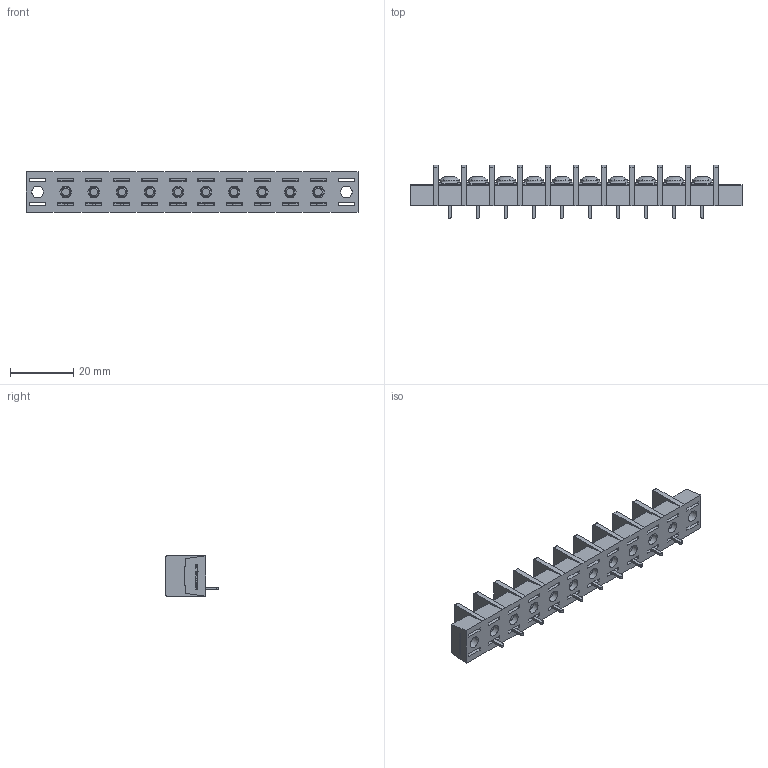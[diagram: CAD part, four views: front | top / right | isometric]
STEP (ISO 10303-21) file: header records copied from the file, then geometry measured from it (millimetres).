
FILE_DESCRIPTION(/* description */ ('Alibre Inc.'),/* implementation_level */ '2;1');
FILE_NAME(/* name */ 'export0',/* time_stamp */ '2015-10-20T08:26:57+09:00',/* author */ (''),/* organization */ (''),/* preprocessor_version */ 'ST-DEVELOPER v14',/* originating_system */ 'Alibre',/* authorisation */ '');
FILE_SCHEMA (('CONFIG_CONTROL_DESIGN'));
Length unit declared in the file: centimetre
Products named in the file (1): ID_1
Bounding box: 105.19 x 16.8 x 12.8 mm (x, y, z)
Volume: 9237.8 mm3; surface area: 11419.2 mm2
Topology: 1 solids, 171 shells, 3222 faces, 8272 edges, 5474 vertices
Faces by surface type: plane 2412, bspline 624, cylinder 106, cone 50, torus 20, sphere 10
Full cylindrical faces by diameter (mm): 3 x20, 3.7 x12, 4.6 x12, 6.3 x10
Entity records: 93113 total; most frequent: CARTESIAN_POINT 22477, ORIENTED_EDGE 16312, DIRECTION 9786, EDGE_CURVE 8156, VECTOR 6284, LINE 6284, VERTEX_POINT 5442, EDGE_LOOP 3540
